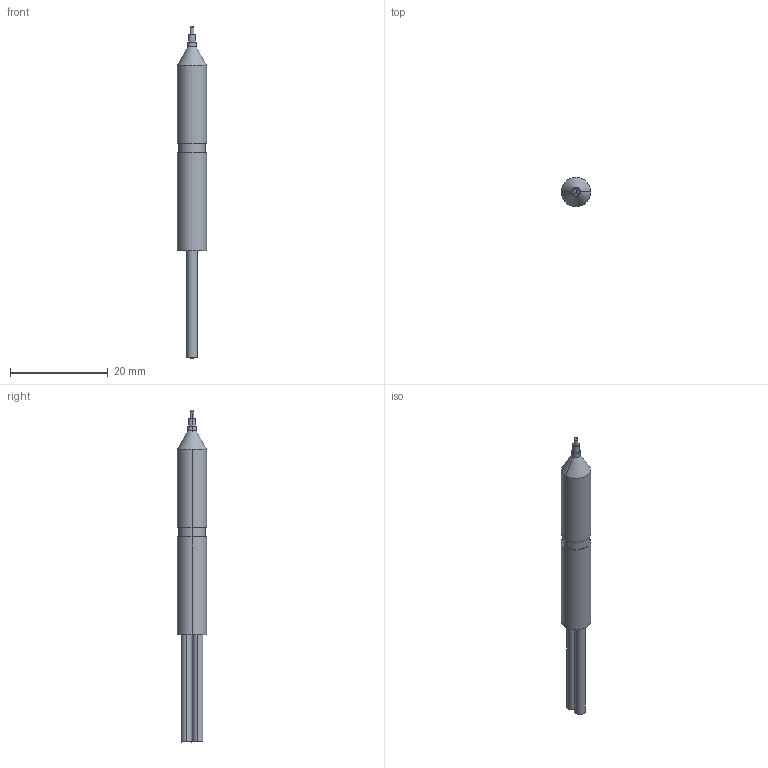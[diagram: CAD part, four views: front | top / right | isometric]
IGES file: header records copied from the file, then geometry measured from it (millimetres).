
Start section: SolidWorks IGES FILE using analytic representation for surfaces
Global section: file name: C:\Documents and Settings\yk0651\デスクトップ\3D_catalog_050904\0_IGES\FD-F8Y.IGS; native system: SolidWorks 2004 by SolidWorks Corporation; preprocessor: Version 5.3; author: yk0651; date: 050904.182701; units: millimetre
Bounding box: 6 x 6 x 68 mm (x, y, z)
Volume: 1286.9 mm3; surface area: 1125.7 mm2
Topology: 1 solids, 1 shells, 27 faces, 56 edges, 35 vertices
Faces by surface type: revolution 20, plane 7
